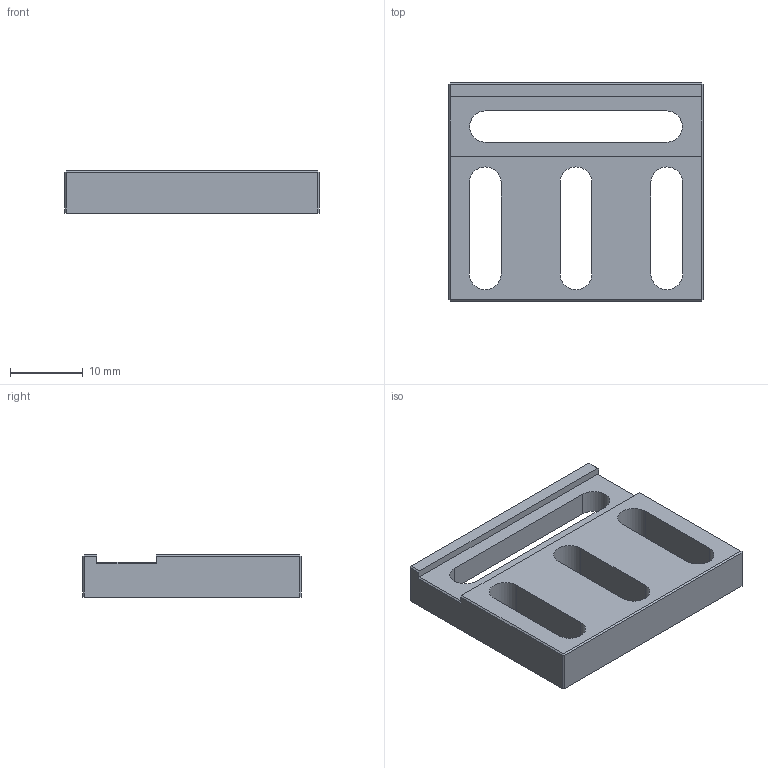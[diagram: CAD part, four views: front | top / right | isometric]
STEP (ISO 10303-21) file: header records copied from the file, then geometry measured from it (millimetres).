
FILE_DESCRIPTION(/* description */ (''),/* implementation_level */ '2;1');
FILE_NAME(/* name */ '',/* time_stamp */ '2025-12-08T17:26:35+08:00',/* author */ ('Q'),/* organization */ (''),/* preprocessor_version */ 'ST-DEVELOPER v20',/* originating_system */ 'Autodesk Inventor 2025',/* authorisation */ '');
FILE_SCHEMA (('AUTOMOTIVE_DESIGN { 1 0 10303 214 3 1 1 }'));
Length unit declared in the file: millimetre
Products named in the file (1): aom底座
Bounding box: 35 x 30 x 5.8 mm (x, y, z)
Volume: 3742.8 mm3; surface area: 3226.7 mm2
Topology: 1 solids, 1 shells, 47 faces, 120 edges, 76 vertices
Faces by surface type: plane 37, cylinder 10
Entity records: 1457 total; most frequent: CARTESIAN_POINT 244, ORIENTED_EDGE 240, DIRECTION 236, EDGE_CURVE 120, LINE 100, VECTOR 100, VERTEX_POINT 76, AXIS2_PLACEMENT_3D 68
